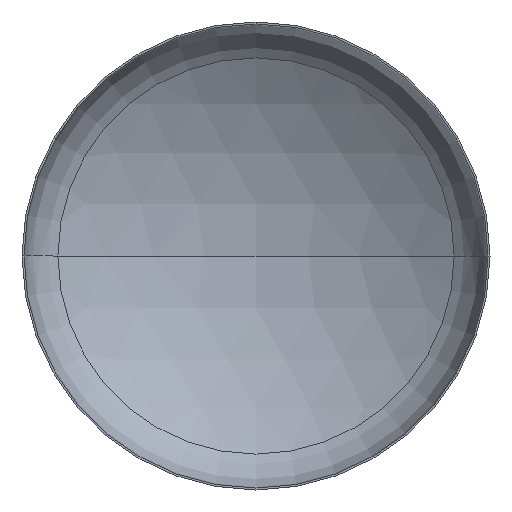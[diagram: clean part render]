
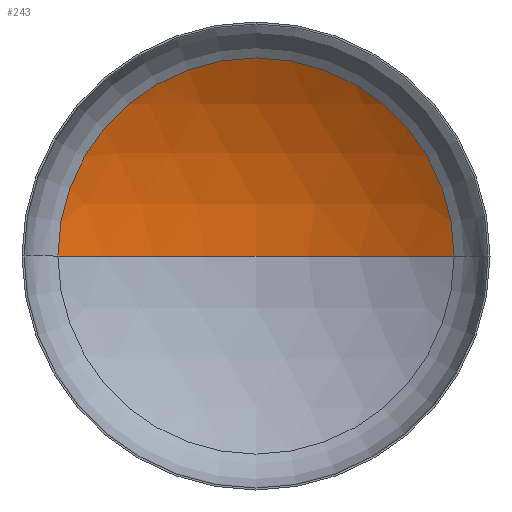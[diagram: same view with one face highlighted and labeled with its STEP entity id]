
A CAD part, front view. The second image highlights one B-rep face of the part: STEP entity #243.
In plain terms, the highlighted spherical face has radius 3040 mm.
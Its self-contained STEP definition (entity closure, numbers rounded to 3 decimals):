
#1 = CARTESIAN_POINT ( 'NONE',  ( 0., -2028.176, 0. ) ) ;
#16 = CARTESIAN_POINT ( 'NONE',  ( 0., -2028.176, 0. ) ) ;
#20 = AXIS2_PLACEMENT_3D ( 'NONE', #16, #130, #393 ) ;
#33 = AXIS2_PLACEMENT_3D ( 'NONE', #116, #311, #253 ) ;
#34 = AXIS2_PLACEMENT_3D ( 'NONE', #1, #251, #172 ) ;
#36 = AXIS2_PLACEMENT_3D ( 'NONE', #142, #143, #344 ) ;
#67 = VERTEX_POINT ( 'NONE', #271 ) ;
#71 = CARTESIAN_POINT ( 'NONE',  ( 0., 1011.824, 0. ) ) ;
#72 = FACE_OUTER_BOUND ( 'NONE', #226, .T. ) ;
#80 = SPHERICAL_SURFACE ( 'NONE', #20, 3040. ) ;
#88 = ORIENTED_EDGE ( 'NONE', *, *, #94, .T. ) ;
#91 = CIRCLE ( 'NONE', #34, 3040. ) ;
#92 = ORIENTED_EDGE ( 'NONE', *, *, #99, .T. ) ;
#94 = EDGE_CURVE ( 'NONE', #293, #67, #395, .T. ) ;
#98 = CARTESIAN_POINT ( 'NONE',  ( 1608.538, 551.398, 0. ) ) ;
#99 = EDGE_CURVE ( 'NONE', #273, #293, #91, .T. ) ;
#104 = EDGE_CURVE ( 'NONE', #273, #67, #388, .T. ) ;
#116 = CARTESIAN_POINT ( 'NONE',  ( 0., -2028.176, 0. ) ) ;
#130 = DIRECTION ( 'NONE',  ( 0., 0., -1. ) ) ;
#142 = CARTESIAN_POINT ( 'NONE',  ( 0., 551.398, 0. ) ) ;
#143 = DIRECTION ( 'NONE',  ( 0., -1., 0. ) ) ;
#172 = DIRECTION ( 'NONE',  ( -1., 0., 0. ) ) ;
#226 = EDGE_LOOP ( 'NONE', ( #323, #92, #88 ) ) ;
#243 = ADVANCED_FACE ( 'NONE', ( #72 ), #80, .F. ) ;
#251 = DIRECTION ( 'NONE',  ( 0., 0., -1. ) ) ;
#253 = DIRECTION ( 'NONE',  ( 1., 0., 0. ) ) ;
#271 = CARTESIAN_POINT ( 'NONE',  ( -1608.538, 551.398, 0. ) ) ;
#273 = VERTEX_POINT ( 'NONE', #71 ) ;
#293 = VERTEX_POINT ( 'NONE', #98 ) ;
#311 = DIRECTION ( 'NONE',  ( 0., 0., 1. ) ) ;
#323 = ORIENTED_EDGE ( 'NONE', *, *, #104, .F. ) ;
#344 = DIRECTION ( 'NONE',  ( 1., 0., 0. ) ) ;
#388 = CIRCLE ( 'NONE', #33, 3040. ) ;
#393 = DIRECTION ( 'NONE',  ( -1., 0., 0. ) ) ;
#395 = CIRCLE ( 'NONE', #36, 1608.538 ) ;
